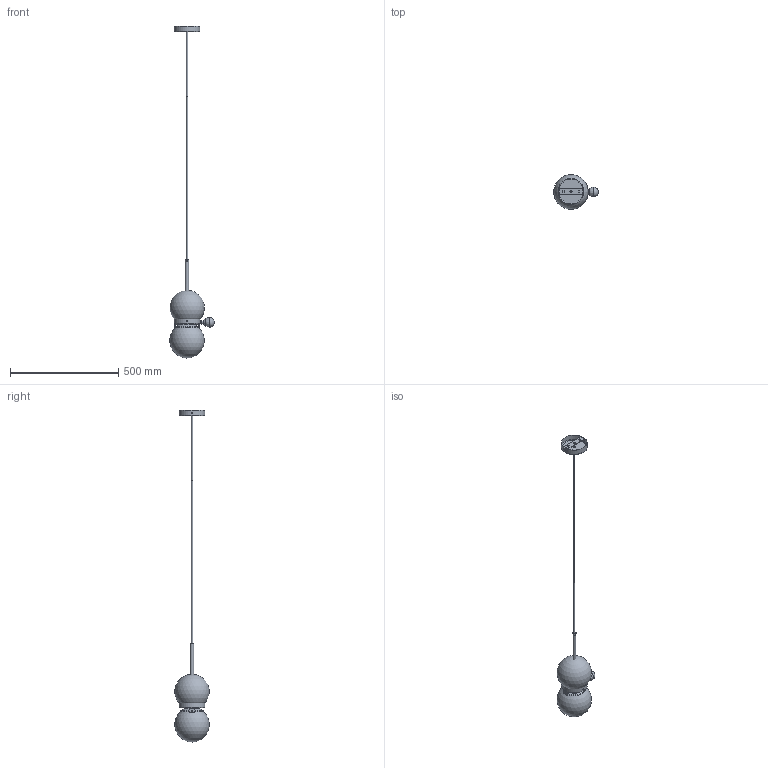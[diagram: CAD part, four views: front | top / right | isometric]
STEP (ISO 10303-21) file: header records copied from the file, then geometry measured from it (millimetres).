
FILE_DESCRIPTION( ( 'Unknown' ), '1' );
FILE_NAME( '//MMS001/Pubblica/PROGETTI MM LAMPADARI/7434 SERIE TUMBLER/ELECTA - LO SCALZO/OLD/PRJ 192_2019 lo scalzo/Sospensioni Singola due misure senza arco/Vetro piccolo/PRJ 192_Sospensione singola vetro piccolo.stp', 'Unknown', ( 'Unknown' ), ( 'Unknown' ), 'XStep 1.0', 'Unknown', ' ' );
FILE_SCHEMA( ( 'automotive_design' ) );
Length unit declared in the file: millimetre
Products named in the file (13): Assem1; Assem2; Assem3; Lampadina E14 Vtac; Base Ø120 per Kendama; Attacco terra Kendama; Tubo raccordo OTTONE; Particolare_revisione; Piatino_E14_revisione; Disco fissaggio_sfera160; Sfera ﾘ160; Cavo elettrico; Staffa
Bounding box: 205.24 x 158.64 x 1534.5 mm (x, y, z)
Volume: 838389.8 mm3; surface area: 622283.3 mm2
Topology: 23 solids, 23 shells, 385 faces, 920 edges, 585 vertices
Faces by surface type: plane 146, cylinder 130, torus 81, sphere 11, cone 11, bspline 6
Full cylindrical faces by diameter (mm): 1.2 x3, 2 x2, 3.242 x8, 4.134 x2, 5 x6, 6 x2, 8.917 x2, 10 x2, 10.25 x5, 12 x2, 13.044 x18, 16 x2, 16.211 x3, 18 x4, 18.985 x3, 22 x4, 118 x3, 120 x3
Entity records: 4820 total; most frequent: CARTESIAN_POINT 1094, DIRECTION 762, ORIENTED_EDGE 578, AXIS2_PLACEMENT_3D 309, EDGE_CURVE 289, EDGE_LOOP 264, FACE_OUTER_BOUND 221, VERTEX_POINT 221
